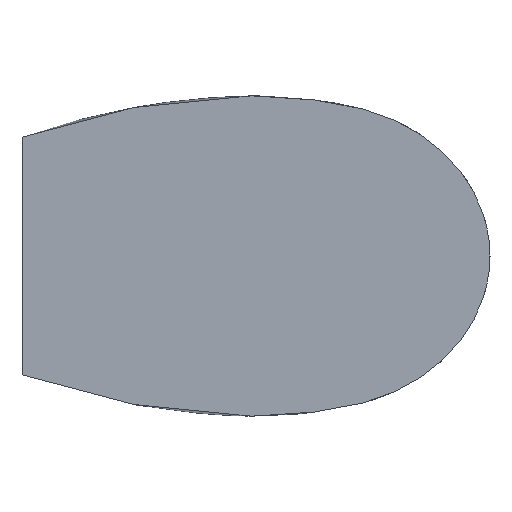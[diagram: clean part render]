
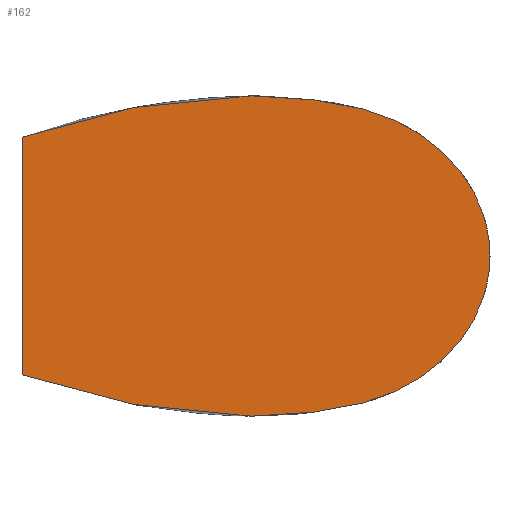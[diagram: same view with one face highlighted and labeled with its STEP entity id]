
A CAD part, left-side view. The second image highlights one B-rep face of the part: STEP entity #162.
In plain terms, the highlighted planar face has unit normal (-1, 0, 0).
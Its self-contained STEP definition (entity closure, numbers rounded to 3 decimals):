
#2=DIRECTION('',(0.,0.,-1.));
#3=VECTOR('',#2,1.806);
#4=CARTESIAN_POINT('',(-9.,-0.3,0.903));
#5=LINE('',#4,#3);
#10=CARTESIAN_POINT('',(-9.,-0.3,0.903));
#11=CARTESIAN_POINT('',(-9.,-0.444,0.954));
#12=CARTESIAN_POINT('',(-9.,-0.732,1.042));
#13=CARTESIAN_POINT('',(-9.,-1.097,1.122));
#14=CARTESIAN_POINT('',(-9.,-1.396,1.169));
#15=CARTESIAN_POINT('',(-9.,-1.586,1.19));
#16=CARTESIAN_POINT('',(-9.,-1.741,1.203));
#17=CARTESIAN_POINT('',(-9.,-1.898,1.215));
#18=CARTESIAN_POINT('',(-9.,-2.11,1.219));
#19=CARTESIAN_POINT('',(-9.,-2.381,1.206));
#20=CARTESIAN_POINT('',(-9.,-2.67,1.166));
#21=CARTESIAN_POINT('',(-9.,-2.962,1.106));
#22=CARTESIAN_POINT('',(-9.,-3.241,0.987));
#23=CARTESIAN_POINT('',(-9.,-3.491,0.81));
#24=CARTESIAN_POINT('',(-9.,-3.693,0.577));
#25=CARTESIAN_POINT('',(-9.,-3.825,0.3));
#26=CARTESIAN_POINT('',(-9.,-3.855,0.099));
#27=CARTESIAN_POINT('',(-9.,-3.855,0.));
#29=CARTESIAN_POINT('',(-9.,-0.3,-0.903));
#30=CARTESIAN_POINT('',(-9.,-0.444,-0.954));
#31=CARTESIAN_POINT('',(-9.,-0.732,-1.042));
#32=CARTESIAN_POINT('',(-9.,-1.097,-1.122));
#33=CARTESIAN_POINT('',(-9.,-1.396,-1.169));
#34=CARTESIAN_POINT('',(-9.,-1.586,-1.19));
#35=CARTESIAN_POINT('',(-9.,-1.741,-1.203));
#36=CARTESIAN_POINT('',(-9.,-1.898,-1.215));
#37=CARTESIAN_POINT('',(-9.,-2.11,-1.219));
#38=CARTESIAN_POINT('',(-9.,-2.381,-1.206));
#39=CARTESIAN_POINT('',(-9.,-2.67,-1.166));
#40=CARTESIAN_POINT('',(-9.,-2.962,-1.106));
#41=CARTESIAN_POINT('',(-9.,-3.241,-0.987));
#42=CARTESIAN_POINT('',(-9.,-3.491,-0.81));
#43=CARTESIAN_POINT('',(-9.,-3.693,-0.577));
#44=CARTESIAN_POINT('',(-9.,-3.825,-0.3));
#45=CARTESIAN_POINT('',(-9.,-3.855,-0.099));
#46=CARTESIAN_POINT('',(-9.,-3.855,0.));
#127=CARTESIAN_POINT('',(-9.,-0.3,0.903));
#128=CARTESIAN_POINT('',(-9.,-0.3,-0.903));
#129=VERTEX_POINT('',#127);
#130=VERTEX_POINT('',#128);
#131=VERTEX_POINT('',#27);
#150=CARTESIAN_POINT('',(-9.,0.,0.));
#151=DIRECTION('',(1.,0.,0.));
#152=DIRECTION('',(0.,0.,-1.));
#153=AXIS2_PLACEMENT_3D('',#150,#151,#152);
#154=PLANE('',#153);
#155=ORIENTED_EDGE('',*,*,#137,.F.);
#157=ORIENTED_EDGE('',*,*,#156,.T.);
#159=ORIENTED_EDGE('',*,*,#158,.F.);
#160=EDGE_LOOP('',(#155,#157,#159));
#161=FACE_OUTER_BOUND('',#160,.F.);
#162=ADVANCED_FACE('',(#161),#154,.F.);
#28=B_SPLINE_CURVE_WITH_KNOTS('',3,(#10,#11,#12,#13,#14,#15,#16,#17,#18,#19,#20,
#21,#22,#23,#24,#25,#26,#27),.UNSPECIFIED.,.F.,.F.,(4,1,1,1,1,1,1,1,1,1,1,1,1,1,
1,4),(0.,0.117,0.234,0.292,
0.351,0.38,0.409,0.468,
0.534,0.601,0.667,0.734,
0.8,0.867,0.933,1.),.UNSPECIFIED.);
#47=B_SPLINE_CURVE_WITH_KNOTS('',3,(#29,#30,#31,#32,#33,#34,#35,#36,#37,#38,#39,
#40,#41,#42,#43,#44,#45,#46),.UNSPECIFIED.,.F.,.F.,(4,1,1,1,1,1,1,1,1,1,1,1,1,1,
1,4),(0.,0.117,0.234,0.292,
0.351,0.38,0.409,0.468,
0.534,0.601,0.667,0.734,
0.8,0.867,0.933,1.),.UNSPECIFIED.);
#137=EDGE_CURVE('',#129,#130,#5,.T.);
#156=EDGE_CURVE('',#129,#131,#28,.T.);
#158=EDGE_CURVE('',#130,#131,#47,.T.);
